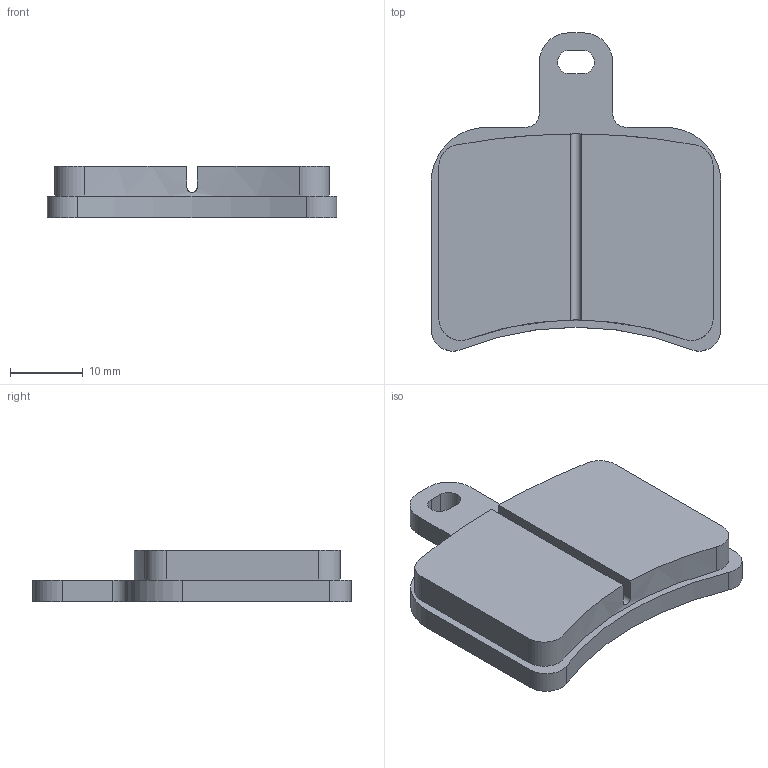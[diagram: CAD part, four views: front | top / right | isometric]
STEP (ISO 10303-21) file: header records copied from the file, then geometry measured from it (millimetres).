
FILE_DESCRIPTION (( 'STEP AP203' ), '1' );
FILE_NAME ('CP4226-Pad.STEP', '2014-09-03T11:21:36', ( 'Joe Bennett' ), ( '' ), 'SwSTEP 2.0', 'SolidWorks 2014', '' );
FILE_SCHEMA (( 'CONFIG_CONTROL_DESIGN' ));
Length unit declared in the file: millimetre
Products named in the file (1): CP4226-Pad
Bounding box: 39.7 x 43.64 x 7 mm (x, y, z)
Volume: 7453.1 mm3; surface area: 3611.8 mm2
Topology: 1 solids, 1 shells, 42 faces, 111 edges, 74 vertices
Faces by surface type: cylinder 23, plane 19
Entity records: 1424 total; most frequent: CARTESIAN_POINT 254, DIRECTION 241, ORIENTED_EDGE 222, EDGE_CURVE 111, AXIS2_PLACEMENT_3D 89, VERTEX_POINT 74, VECTOR 63, LINE 63
